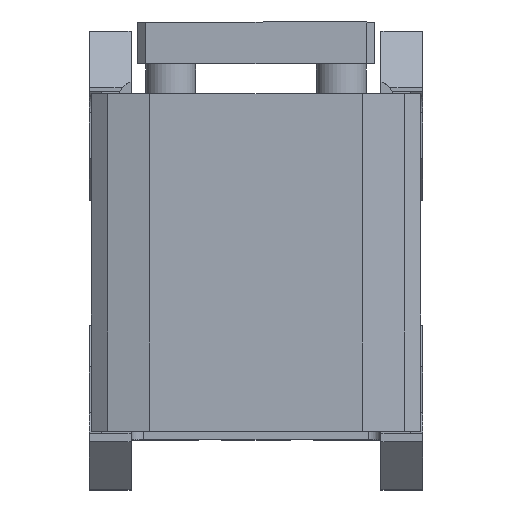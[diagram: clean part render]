
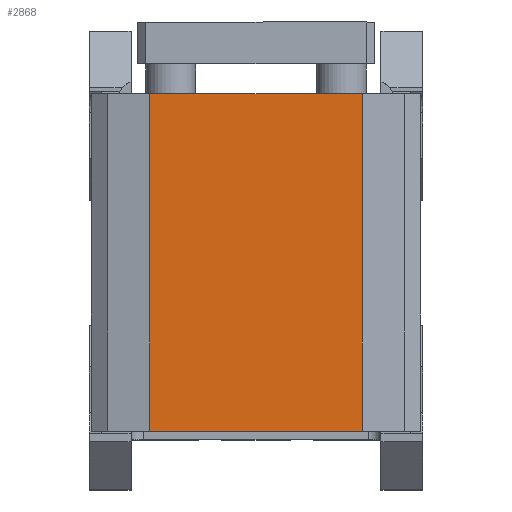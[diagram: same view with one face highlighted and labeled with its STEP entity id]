
A CAD part, top view. The second image highlights one B-rep face of the part: STEP entity #2868.
In plain terms, the highlighted planar face has unit normal (0, 0, 1).
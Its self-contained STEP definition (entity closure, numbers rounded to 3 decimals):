
#225=FACE_OUTER_BOUND('',#390,.T.);
#390=EDGE_LOOP('',(#1982,#1983,#1984,#1985));
#593=LINE('',#4105,#894);
#639=LINE('',#4206,#940);
#645=LINE('',#4218,#946);
#646=LINE('',#4220,#947);
#894=VECTOR('',#3316,81.);
#940=VECTOR('',#3410,51.);
#946=VECTOR('',#3422,81.);
#947=VECTOR('',#3425,51.);
#1191=VERTEX_POINT('',#4103);
#1192=VERTEX_POINT('',#4104);
#1223=VERTEX_POINT('',#4204);
#1226=VERTEX_POINT('',#4216);
#1466=EDGE_CURVE('',#1191,#1192,#593,.T.);
#1518=EDGE_CURVE('',#1223,#1192,#639,.T.);
#1524=EDGE_CURVE('',#1223,#1226,#645,.T.);
#1525=EDGE_CURVE('',#1191,#1226,#646,.T.);
#1982=ORIENTED_EDGE('',*,*,#1525,.F.);
#1983=ORIENTED_EDGE('',*,*,#1466,.T.);
#1984=ORIENTED_EDGE('',*,*,#1518,.F.);
#1985=ORIENTED_EDGE('',*,*,#1524,.T.);
#2589=PLANE('',#3045);
#2868=ADVANCED_FACE('',(#225),#2589,.T.);
#3045=AXIS2_PLACEMENT_3D('',#4219,#3423,#3424);
#3316=DIRECTION('',(0.,-1.,0.));
#3410=DIRECTION('',(-1.,0.,0.));
#3422=DIRECTION('',(0.,1.,0.));
#3423=DIRECTION('center_axis',(0.,0.,1.));
#3424=DIRECTION('ref_axis',(0.,-1.,0.));
#3425=DIRECTION('',(1.,0.,0.));
#4103=CARTESIAN_POINT('',(-25.5,-15.,80.));
#4104=CARTESIAN_POINT('',(-25.5,-96.,80.));
#4105=CARTESIAN_POINT('',(-25.5,-15.,80.));
#4204=CARTESIAN_POINT('',(25.5,-96.,80.));
#4206=CARTESIAN_POINT('',(25.5,-96.,80.));
#4216=CARTESIAN_POINT('',(25.5,-15.,80.));
#4218=CARTESIAN_POINT('',(25.5,-96.,80.));
#4219=CARTESIAN_POINT('Origin',(-39.5,-15.,80.));
#4220=CARTESIAN_POINT('',(-25.5,-15.,80.));
